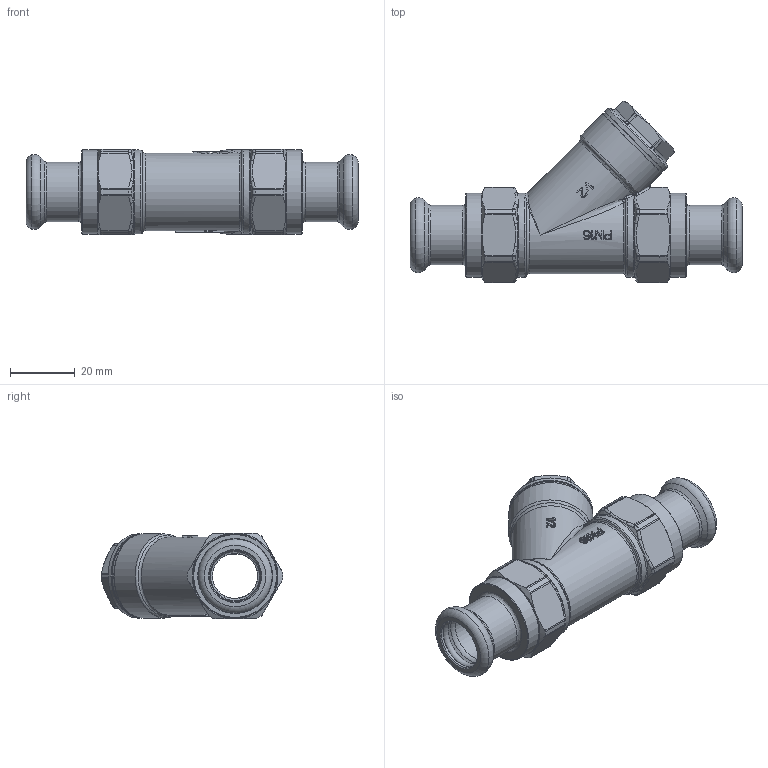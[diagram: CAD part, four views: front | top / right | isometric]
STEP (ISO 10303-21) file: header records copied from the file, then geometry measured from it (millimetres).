
FILE_DESCRIPTION((''),'2;1');
FILE_NAME('P:\Fastrack\53972_CRANE 3D\Press Fit\D298\D298-PF_15MM\D298-PF_15MM.stp','2012-02-03T13:44:32',('dcole'),(''),'Autodesk Inventor 2008','Autodesk Inventor 2008','');
FILE_SCHEMA(('AUTOMOTIVE_DESIGN { 1 0 10303 214 1 1 1 1 }'));
Length unit declared in the file: millimetre
Products named in the file (1): D298-PF_15MM
Bounding box: 102.6 x 56.14 x 26.5 mm (x, y, z)
Volume: 28041 mm3; surface area: 21335.1 mm2
Topology: 1 solids, 2 shells, 625 faces, 1586 edges, 974 vertices
Faces by surface type: bspline 237, plane 151, cylinder 112, cone 53, torus 48, sphere 24
Full cylindrical faces by diameter (mm): 15.2 x3, 15.75 x2, 18.4 x1, 18.45 x2, 18.631 x2, 19.6 x1, 20.38 x1, 22 x2, 22.1 x2, 22.4 x1, 25.5 x2, 26 x5
Entity records: 27816 total; most frequent: CARTESIAN_POINT 13758, ORIENTED_EDGE 2952, DIRECTION 2439, EDGE_CURVE 1476, AXIS2_PLACEMENT_3D 975, VERTEX_POINT 956, EDGE_LOOP 731, FACE_OUTER_BOUND 625
